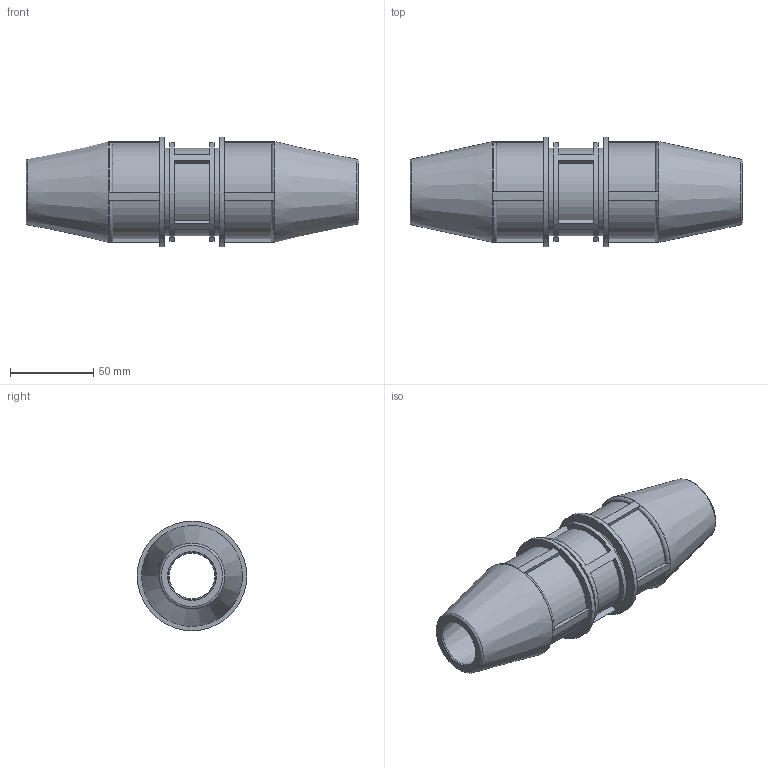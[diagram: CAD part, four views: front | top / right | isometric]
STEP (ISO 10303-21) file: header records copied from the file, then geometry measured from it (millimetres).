
FILE_DESCRIPTION(/* description */ ('PLASSON UNIVERSAL SLIP REPAIR COUPLER 24-28 SERIES 17'),/* implementation_level */ '2;1');
FILE_NAME(/* name */ 'C:\Dropbox\KIMPROJECTS-Inventor\99-16-3568-Processing\S1\17610\176100024028_196100024028.ipt.stp',/* time_stamp */ '2018-02-11T12:57:53+02:00',/* author */ ('KIM'),/* organization */ (''),/* preprocessor_version */ 'ST-DEVELOPER v15.6',/* originating_system */ 'Autodesk Inventor 2015',/* authorisation */ '');
FILE_SCHEMA (('AUTOMOTIVE_DESIGN { 1 0 10303 214 3 1 1 }'));
Length unit declared in the file: millimetre
Products named in the file (1): 176100024028_196100024028
Bounding box: 200 x 66 x 66 mm (x, y, z)
Volume: 305707.3 mm3; surface area: 64066.1 mm2
Topology: 1 solids, 1 shells, 86 faces, 211 edges, 138 vertices
Faces by surface type: plane 50, cylinder 20, torus 10, cone 6
Full cylindrical faces by diameter (mm): 27.44 x1, 52.8 x2, 59.4 x1, 60.72 x2, 66 x2
Entity records: 2492 total; most frequent: DIRECTION 462, CARTESIAN_POINT 415, ORIENTED_EDGE 384, EDGE_CURVE 192, AXIS2_PLACEMENT_3D 183, VERTEX_POINT 136, EDGE_LOOP 116, LINE 96
